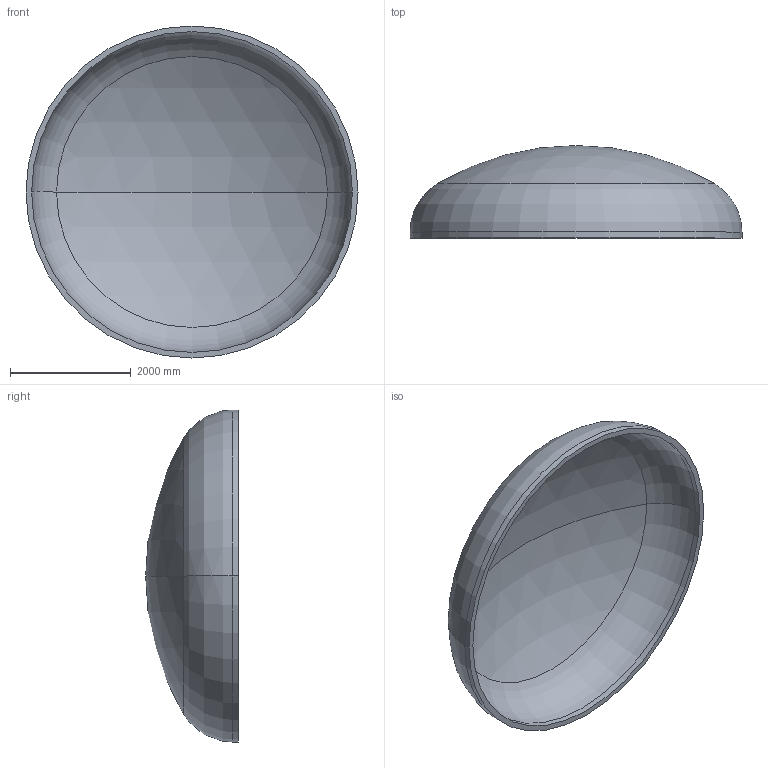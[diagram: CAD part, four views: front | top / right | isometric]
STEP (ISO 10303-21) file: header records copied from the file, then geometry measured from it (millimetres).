
FILE_DESCRIPTION (( 'STEP AP203' ), '1' );
FILE_NAME ('DIN 28013 Korbbogenform_-_Boden DIN 28013 - 5500 x 100 - I - s=92.step', '2016-07-04T10:35:02', ( '' ), ( '' ), 'SwSTEP 2.0', 'SolidWorks 2013', '' );
FILE_SCHEMA (( 'CONFIG_CONTROL_DESIGN' ));
Length unit declared in the file: millimetre
Products named in the file (1): DIN 28013 Korbbogenform_-_Boden DIN 28013 - 5500 x 100 - I - s=92
Bounding box: 5500 x 1534.05 x 5500 mm (x, y, z)
Volume: 3116097418.8 mm3; surface area: 69322005.5 mm2
Topology: 1 solids, 1 shells, 13 faces, 24 edges, 14 vertices
Faces by surface type: torus 4, cylinder 4, sphere 4, plane 1
Entity records: 407 total; most frequent: DIRECTION 72, CARTESIAN_POINT 52, ORIENTED_EDGE 48, AXIS2_PLACEMENT_3D 34, EDGE_CURVE 24, CIRCLE 20, EDGE_LOOP 14, VERTEX_POINT 14
